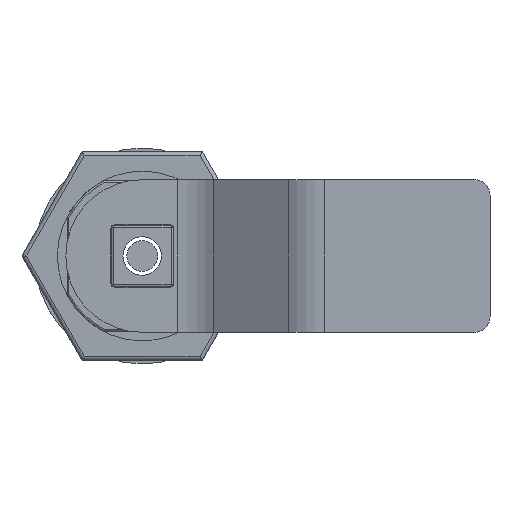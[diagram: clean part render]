
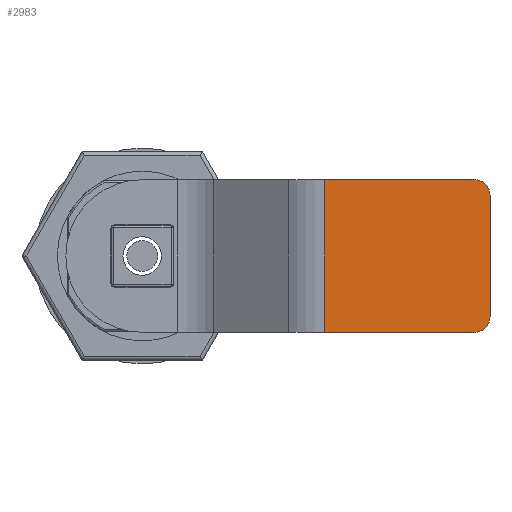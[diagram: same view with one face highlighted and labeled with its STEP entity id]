
A CAD part, front view. The second image highlights one B-rep face of the part: STEP entity #2983.
In plain terms, the highlighted planar face has unit normal (0, -1, 0).
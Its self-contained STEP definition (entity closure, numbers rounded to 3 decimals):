
#3 = PLANE ( 'NONE',  #2720 ) ;
#95 = CARTESIAN_POINT ( 'NONE',  ( 656.465, 832.471, 1262.001 ) ) ;
#148 = CARTESIAN_POINT ( 'NONE',  ( 675.891, 832.471, 1281.801 ) ) ;
#215 = DIRECTION ( 'NONE',  ( 1., 0., 0. ) ) ;
#321 = VERTEX_POINT ( 'NONE', #148 ) ;
#323 = CARTESIAN_POINT ( 'NONE',  ( 675.891, 832.471, 1279.801 ) ) ;
#338 = CIRCLE ( 'NONE', #2760, 2. ) ;
#487 = VERTEX_POINT ( 'NONE', #1930 ) ;
#688 = CARTESIAN_POINT ( 'NONE',  ( 653.891, 832.471, 1281.801 ) ) ;
#730 = DIRECTION ( 'NONE',  ( -1., 0., 0. ) ) ;
#731 = VERTEX_POINT ( 'NONE', #95 ) ;
#876 = EDGE_CURVE ( 'NONE', #1056, #487, #2932, .T. ) ;
#1056 = VERTEX_POINT ( 'NONE', #3349 ) ;
#1300 = CARTESIAN_POINT ( 'NONE',  ( 677.891, 832.471, 1262.001 ) ) ;
#1309 = DIRECTION ( 'NONE',  ( 1., 0., 0. ) ) ;
#1319 = EDGE_CURVE ( 'NONE', #4044, #731, #2082, .T. ) ;
#1747 = EDGE_CURVE ( 'NONE', #487, #321, #338, .T. ) ;
#1832 = ORIENTED_EDGE ( 'NONE', *, *, #1747, .T. ) ;
#1870 = ORIENTED_EDGE ( 'NONE', *, *, #2016, .T. ) ;
#1877 = ORIENTED_EDGE ( 'NONE', *, *, #2642, .F. ) ;
#1923 = ORIENTED_EDGE ( 'NONE', *, *, #876, .T. ) ;
#1930 = CARTESIAN_POINT ( 'NONE',  ( 677.891, 832.471, 1279.801 ) ) ;
#1946 = CARTESIAN_POINT ( 'NONE',  ( 675.891, 832.471, 1264.001 ) ) ;
#2012 = EDGE_LOOP ( 'NONE', ( #1870, #4305, #1877, #3357, #1923, #1832 ) ) ;
#2016 = EDGE_CURVE ( 'NONE', #321, #4044, #3717, .T. ) ;
#2082 = LINE ( 'NONE', #3412, #2496 ) ;
#2299 = DIRECTION ( 'NONE',  ( 0., -1., 0. ) ) ;
#2305 = DIRECTION ( 'NONE',  ( 0., 0., 1. ) ) ;
#2364 = DIRECTION ( 'NONE',  ( 0., 0., -1. ) ) ;
#2443 = DIRECTION ( 'NONE',  ( -1., 0., 0. ) ) ;
#2496 = VECTOR ( 'NONE', #2364, 1000. ) ;
#2642 = EDGE_CURVE ( 'NONE', #3413, #731, #3834, .T. ) ;
#2720 = AXIS2_PLACEMENT_3D ( 'NONE', #3600, #3981, #1309 ) ;
#2760 = AXIS2_PLACEMENT_3D ( 'NONE', #323, #2299, #3628 ) ;
#2778 = CARTESIAN_POINT ( 'NONE',  ( 653.891, 832.471, 1262.001 ) ) ;
#2932 = LINE ( 'NONE', #1300, #3323 ) ;
#2983 = ADVANCED_FACE ( 'NONE', ( #2999 ), #3, .F. ) ;
#2987 = VECTOR ( 'NONE', #730, 1000. ) ;
#2999 = FACE_OUTER_BOUND ( 'NONE', #2012, .T. ) ;
#3178 = VECTOR ( 'NONE', #2443, 1000. ) ;
#3323 = VECTOR ( 'NONE', #2305, 1000. ) ;
#3349 = CARTESIAN_POINT ( 'NONE',  ( 677.891, 832.471, 1264.001 ) ) ;
#3357 = ORIENTED_EDGE ( 'NONE', *, *, #4047, .T. ) ;
#3412 = CARTESIAN_POINT ( 'NONE',  ( 656.465, 832.471, 1262.001 ) ) ;
#3413 = VERTEX_POINT ( 'NONE', #4041 ) ;
#3568 = CARTESIAN_POINT ( 'NONE',  ( 656.465, 832.471, 1281.801 ) ) ;
#3578 = AXIS2_PLACEMENT_3D ( 'NONE', #1946, #3942, #215 ) ;
#3600 = CARTESIAN_POINT ( 'NONE',  ( 653.891, 832.471, 1262.001 ) ) ;
#3628 = DIRECTION ( 'NONE',  ( 1., 0., 0. ) ) ;
#3717 = LINE ( 'NONE', #688, #2987 ) ;
#3834 = LINE ( 'NONE', #2778, #3178 ) ;
#3942 = DIRECTION ( 'NONE',  ( 0., -1., 0. ) ) ;
#3981 = DIRECTION ( 'NONE',  ( 0., 1., 0. ) ) ;
#4041 = CARTESIAN_POINT ( 'NONE',  ( 675.891, 832.471, 1262.001 ) ) ;
#4044 = VERTEX_POINT ( 'NONE', #3568 ) ;
#4047 = EDGE_CURVE ( 'NONE', #3413, #1056, #4137, .T. ) ;
#4137 = CIRCLE ( 'NONE', #3578, 2. ) ;
#4305 = ORIENTED_EDGE ( 'NONE', *, *, #1319, .T. ) ;
